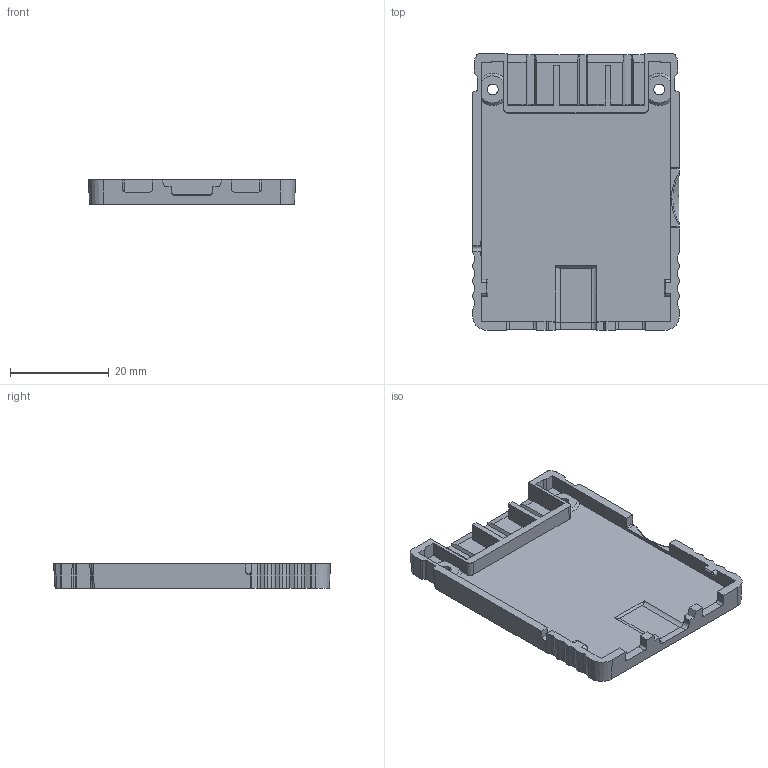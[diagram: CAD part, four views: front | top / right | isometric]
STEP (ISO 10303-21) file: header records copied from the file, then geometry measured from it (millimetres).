
FILE_DESCRIPTION((''),'2;1');
FILE_NAME('KK-01_0920','2025-02-10T19:34:58',('admin'),(''),'CREO PARAMETRIC BY PTC INC, 2021164','CREO PARAMETRIC BY PTC INC, 2021164','');
FILE_SCHEMA(('AP203_CONFIGURATION_CONTROLLED_3D_DESIGN_OF_MECHANICAL_PARTS_AND_ASSEMBLIES_MIM_LF { 1 0 10303 403 2 1 2 }'));
Length unit declared in the file: millimetre
Products named in the file (1): KK-01_0920
Bounding box: 41.9 x 56 x 4.9 mm (x, y, z)
Volume: 4915.7 mm3; surface area: 6251.1 mm2
Topology: 1 solids, 1 shells, 190 faces, 557 edges, 371 vertices
Faces by surface type: plane 117, cylinder 57, cone 10, torus 4, bspline 2
Entity records: 6642 total; most frequent: CARTESIAN_POINT 1685, ORIENTED_EDGE 1114, DIRECTION 886, EDGE_CURVE 557, VECTOR 392, LINE 392, VERTEX_POINT 371, AXIS2_PLACEMENT_3D 247
